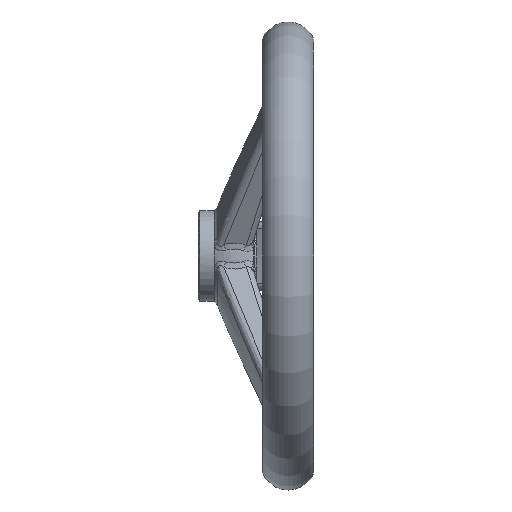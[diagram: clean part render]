
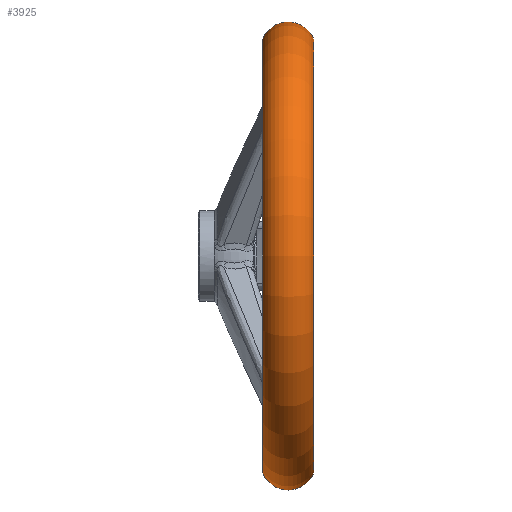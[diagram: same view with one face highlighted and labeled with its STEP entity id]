
A CAD part, front view. The second image highlights one B-rep face of the part: STEP entity #3925.
In plain terms, the highlighted toroidal (fillet/blend) face has major radius 70.6 mm and minor radius 9.4 mm.
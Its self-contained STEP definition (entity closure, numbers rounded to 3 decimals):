
#367 = DIRECTION ( 'NONE',  ( 0., 0., -1. ) ) ;
#380 = AXIS2_PLACEMENT_3D ( 'NONE', #7052, #3185, #5645 ) ;
#675 = CARTESIAN_POINT ( 'NONE',  ( 39.44, 0., 74.185 ) ) ;
#733 = VERTEX_POINT ( 'NONE', #7425 ) ;
#935 = EDGE_CURVE ( 'NONE', #733, #1652, #2950, .T. ) ;
#1180 = EDGE_CURVE ( 'NONE', #1652, #7287, #6726, .T. ) ;
#1652 = VERTEX_POINT ( 'NONE', #675 ) ;
#1750 = ORIENTED_EDGE ( 'NONE', *, *, #1180, .T. ) ;
#2165 = AXIS2_PLACEMENT_3D ( 'NONE', #5216, #5318, #2999 ) ;
#2228 = CIRCLE ( 'NONE', #7756, 74.185 ) ;
#2597 = CIRCLE ( 'NONE', #380, 9.4 ) ;
#2950 = CIRCLE ( 'NONE', #2165, 74.185 ) ;
#2999 = DIRECTION ( 'NONE',  ( 0., 0., 1. ) ) ;
#3029 = FACE_OUTER_BOUND ( 'NONE', #8110, .T. ) ;
#3185 = DIRECTION ( 'NONE',  ( 0., 1., 0. ) ) ;
#3587 = ORIENTED_EDGE ( 'NONE', *, *, #5691, .F. ) ;
#3913 = DIRECTION ( 'NONE',  ( -1., 0., 0. ) ) ;
#3925 = ADVANCED_FACE ( 'NONE', ( #3029 ), #4356, .T. ) ;
#4356 = TOROIDAL_SURFACE ( 'NONE', #7530, 70.6, 9.4 ) ;
#5193 = VERTEX_POINT ( 'NONE', #8553 ) ;
#5216 = CARTESIAN_POINT ( 'NONE',  ( 39.44, 0., 0. ) ) ;
#5318 = DIRECTION ( 'NONE',  ( -1., 0., 0. ) ) ;
#5443 = CARTESIAN_POINT ( 'NONE',  ( 30.75, 0., 0. ) ) ;
#5645 = DIRECTION ( 'NONE',  ( 0., 0., 1. ) ) ;
#5691 = EDGE_CURVE ( 'NONE', #5193, #7287, #2228, .T. ) ;
#5932 = AXIS2_PLACEMENT_3D ( 'NONE', #8629, #8581, #367 ) ;
#6726 = CIRCLE ( 'NONE', #5932, 9.4 ) ;
#7010 = CARTESIAN_POINT ( 'NONE',  ( 22.06, 0., 74.185 ) ) ;
#7052 = CARTESIAN_POINT ( 'NONE',  ( 30.75, 0., -70.6 ) ) ;
#7287 = VERTEX_POINT ( 'NONE', #7010 ) ;
#7333 = ORIENTED_EDGE ( 'NONE', *, *, #9748, .F. ) ;
#7425 = CARTESIAN_POINT ( 'NONE',  ( 39.44, 0., -74.185 ) ) ;
#7530 = AXIS2_PLACEMENT_3D ( 'NONE', #5443, #3913, #9381 ) ;
#7756 = AXIS2_PLACEMENT_3D ( 'NONE', #9635, #9736, #9792 ) ;
#8014 = ORIENTED_EDGE ( 'NONE', *, *, #935, .T. ) ;
#8110 = EDGE_LOOP ( 'NONE', ( #7333, #8014, #1750, #3587 ) ) ;
#8553 = CARTESIAN_POINT ( 'NONE',  ( 22.06, 0., -74.185 ) ) ;
#8581 = DIRECTION ( 'NONE',  ( 0., -1., 0. ) ) ;
#8629 = CARTESIAN_POINT ( 'NONE',  ( 30.75, 0., 70.6 ) ) ;
#9381 = DIRECTION ( 'NONE',  ( 0., 0., 1. ) ) ;
#9635 = CARTESIAN_POINT ( 'NONE',  ( 22.06, 0., 0. ) ) ;
#9736 = DIRECTION ( 'NONE',  ( -1., 0., 0. ) ) ;
#9748 = EDGE_CURVE ( 'NONE', #733, #5193, #2597, .T. ) ;
#9792 = DIRECTION ( 'NONE',  ( 0., 0., 1. ) ) ;
